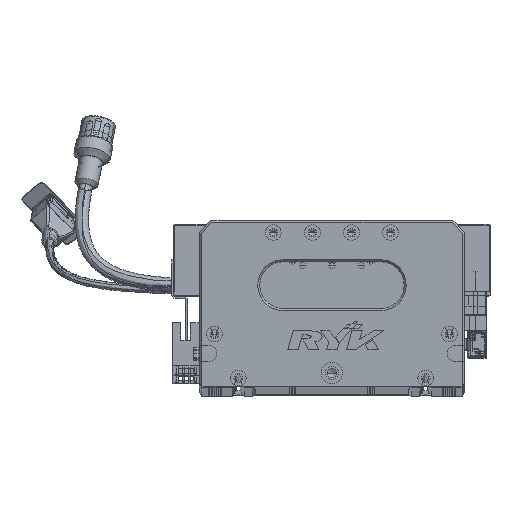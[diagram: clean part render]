
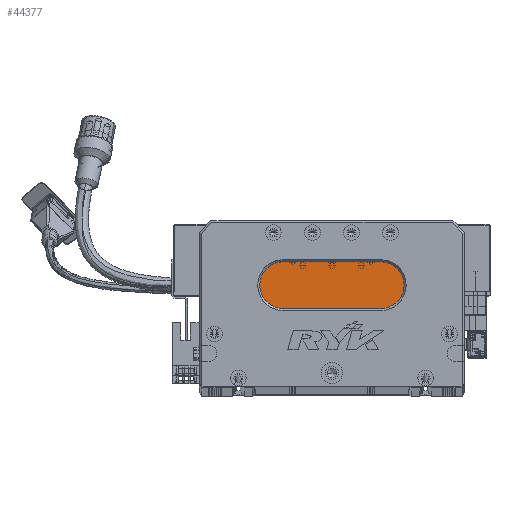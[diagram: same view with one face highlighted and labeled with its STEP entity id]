
A CAD part, top view. The second image highlights one B-rep face of the part: STEP entity #44377.
In plain terms, the highlighted planar face has unit normal (0, 0, 1) as drawn and (0, 0, -1) by its records, which use the part's own axes.
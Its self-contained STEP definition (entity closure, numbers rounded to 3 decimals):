
#1763 = LINE ( 'NONE', #111906, #42835 ) ;
#2053 = DIRECTION ( 'NONE',  ( -1., 0., 0. ) ) ;
#5498 = ORIENTED_EDGE ( 'NONE', *, *, #37403, .T. ) ;
#10146 = AXIS2_PLACEMENT_3D ( 'NONE', #40721, #50456, #2053 ) ;
#15204 = VERTEX_POINT ( 'NONE', #33394 ) ;
#20588 = CARTESIAN_POINT ( 'NONE',  ( 43., 52., 13. ) ) ;
#25092 = DIRECTION ( 'NONE',  ( 1., 0., 0. ) ) ;
#28533 = VECTOR ( 'NONE', #25092, 1000. ) ;
#29190 = AXIS2_PLACEMENT_3D ( 'NONE', #46970, #56716, #124461 ) ;
#33394 = CARTESIAN_POINT ( 'NONE',  ( 93., 40., 13. ) ) ;
#33605 = CARTESIAN_POINT ( 'NONE',  ( 93., 64., 13. ) ) ;
#36794 = CARTESIAN_POINT ( 'NONE',  ( 43., 40., 13. ) ) ;
#37403 = EDGE_CURVE ( 'NONE', #56517, #15204, #64680, .T. ) ;
#40721 = CARTESIAN_POINT ( 'NONE',  ( 43., 52., 13. ) ) ;
#42835 = VECTOR ( 'NONE', #53457, 1000. ) ;
#44377 = ADVANCED_FACE ( 'NONE', ( #105951 ), #122937, .T. ) ;
#46481 = EDGE_CURVE ( 'NONE', #110329, #89583, #111858, .T. ) ;
#46970 = CARTESIAN_POINT ( 'NONE',  ( 93., 52., 13. ) ) ;
#50456 = DIRECTION ( 'NONE',  ( 0., 0., -1. ) ) ;
#53457 = DIRECTION ( 'NONE',  ( -1., 0., 0. ) ) ;
#56517 = VERTEX_POINT ( 'NONE', #87852 ) ;
#56716 = DIRECTION ( 'NONE',  ( 0., 0., -1. ) ) ;
#60178 = ORIENTED_EDGE ( 'NONE', *, *, #116464, .T. ) ;
#64680 = CIRCLE ( 'NONE', #29190, 12. ) ;
#64928 = DIRECTION ( 'NONE',  ( -1., 0., 0. ) ) ;
#65353 = CARTESIAN_POINT ( 'NONE',  ( 93., 52., 13. ) ) ;
#72899 = ORIENTED_EDGE ( 'NONE', *, *, #46481, .T. ) ;
#81957 = EDGE_CURVE ( 'NONE', #86472, #56517, #104452, .T. ) ;
#84414 = DIRECTION ( 'NONE',  ( 0., 0., -1. ) ) ;
#86472 = VERTEX_POINT ( 'NONE', #114469 ) ;
#87852 = CARTESIAN_POINT ( 'NONE',  ( 93., 64., 13. ) ) ;
#89583 = VERTEX_POINT ( 'NONE', #90652 ) ;
#89707 = AXIS2_PLACEMENT_3D ( 'NONE', #65353, #84414, #64928 ) ;
#90652 = CARTESIAN_POINT ( 'NONE',  ( 31., 52., 13. ) ) ;
#98241 = AXIS2_PLACEMENT_3D ( 'NONE', #20588, #115968, #116797 ) ;
#101123 = EDGE_CURVE ( 'NONE', #89583, #86472, #116576, .T. ) ;
#102441 = ORIENTED_EDGE ( 'NONE', *, *, #101123, .T. ) ;
#104452 = LINE ( 'NONE', #33605, #28533 ) ;
#105089 = ORIENTED_EDGE ( 'NONE', *, *, #81957, .T. ) ;
#105951 = FACE_OUTER_BOUND ( 'NONE', #110874, .T. ) ;
#110329 = VERTEX_POINT ( 'NONE', #36794 ) ;
#110874 = EDGE_LOOP ( 'NONE', ( #5498, #60178, #72899, #102441, #105089 ) ) ;
#111858 = CIRCLE ( 'NONE', #10146, 12. ) ;
#111906 = CARTESIAN_POINT ( 'NONE',  ( 93., 40., 13. ) ) ;
#114469 = CARTESIAN_POINT ( 'NONE',  ( 43., 64., 13. ) ) ;
#115968 = DIRECTION ( 'NONE',  ( 0., 0., -1. ) ) ;
#116464 = EDGE_CURVE ( 'NONE', #15204, #110329, #1763, .T. ) ;
#116576 = CIRCLE ( 'NONE', #98241, 12. ) ;
#116797 = DIRECTION ( 'NONE',  ( -1., 0., 0. ) ) ;
#122937 = PLANE ( 'NONE',  #89707 ) ;
#124461 = DIRECTION ( 'NONE',  ( -1., 0., 0. ) ) ;
